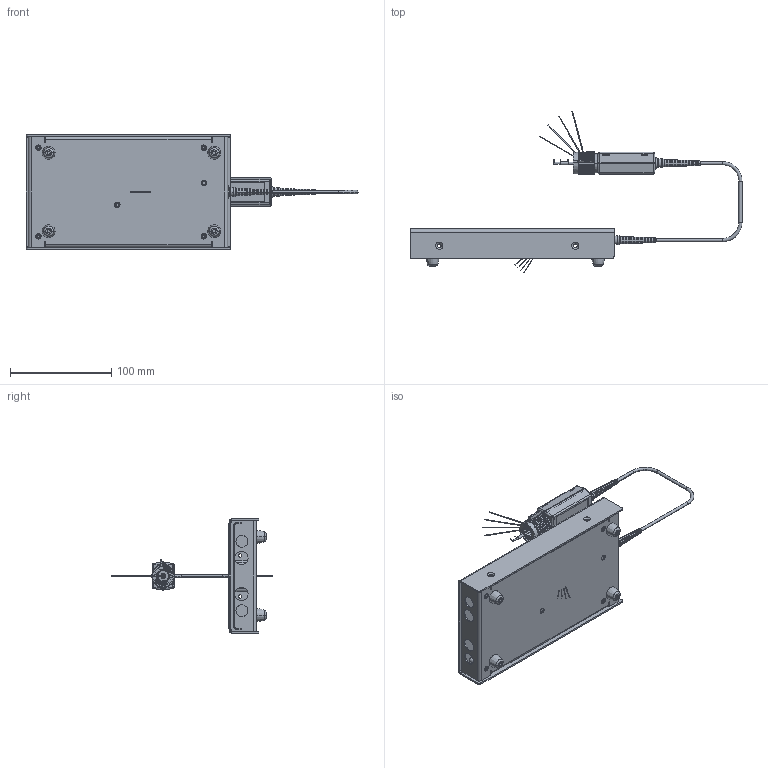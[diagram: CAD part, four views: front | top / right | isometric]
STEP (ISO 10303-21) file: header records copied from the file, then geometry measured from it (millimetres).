
FILE_DESCRIPTION((''),'2;1');
FILE_NAME('ADA400A_DRIVER_ASM','2021-12-17T13:05:03',('mthomps2'),(''),'CREO PARAMETRIC BY PTC INC, 2019080','CREO PARAMETRIC BY PTC INC, 2019080','');
FILE_SCHEMA(('CONFIG_CONTROL_DESIGN','SHAPE_APPEARANCE_LAYERS_GROUPS'));
Length unit declared in the file: inch
Products named in the file (24): 389-3024-00; 380-1098-00_BOTTOM; 337403700_SM_PART; 337403700_PEM; 337403700_ASM; 380-1098-00_BRACKET; 380-1098-00_COVER; 334-8900-00; FOOT_CABINET_PHX; SCREW_PHW_6-32X250_TX15_SS_LIB; 174346200_CABLE; 174346200_BOOT; 174346200_FERRULE; 174346200_PELTOLA; 174346200_SLEEVE; 174346200_CABLE_ASM; COMPBOX_TOP_P6701; COMPBOX_BOTTEM_P6243; 214498600; 131362702; 131362801; 214389825_ASM; 205019101; ADA400A_DRIVER_ASM
Assembly tree (39 placements, depth 3):
  ADA400A_DRIVER_ASM
    389-3024-00
    380-1098-00_BOTTOM
    337403700_ASM
      337403700_SM_PART
      337403700_PEM  x5
    380-1098-00_BRACKET
    380-1098-00_COVER
    334-8900-00
    FOOT_CABINET_PHX  x4
    SCREW_PHW_6-32X250_TX15_SS_LIB  x4
    174346200_CABLE_ASM
      174346200_CABLE
      174346200_BOOT  x2
      174346200_FERRULE  x2
      174346200_PELTOLA
      174346200_SLEEVE
    COMPBOX_TOP_P6701
    COMPBOX_BOTTEM_P6243
    214389825_ASM
      214498600
      131362702  x3
      131362801  x3
    205019101
Bounding box: 328.59 x 160.18 x 113.18 mm (x, y, z)
Volume: 175042.5 mm3; surface area: 289080.8 mm2
Topology: 36 solids, 36 shells, 2662 faces, 7225 edges, 4676 vertices
Faces by surface type: plane 1551, cylinder 810, cone 128, bspline 71, torus 56, sphere 46
Entity records: 76683 total; most frequent: CARTESIAN_POINT 16214, ORIENTED_EDGE 9562, DIRECTION 9042, EDGE_CURVE 4781, PRESENTATION_STYLE_ASSIGNMENT 4011, STYLED_ITEM 4011, CURVE_STYLE 3292, AXIS2_PLACEMENT_3D 3239
